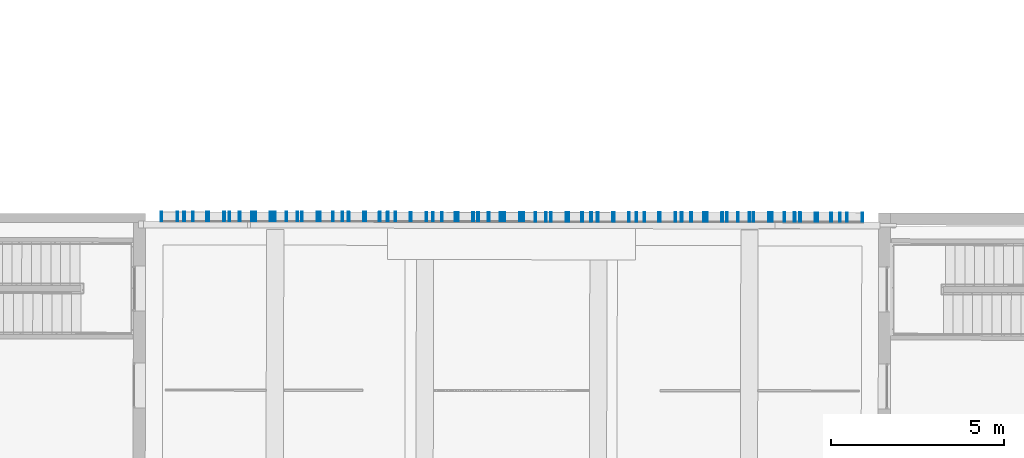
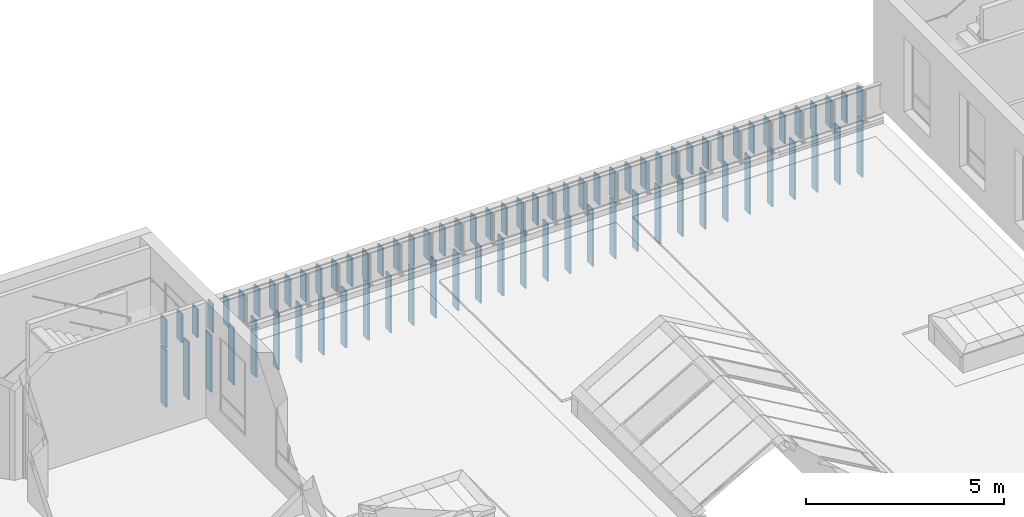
# One storey, part 2 of 101: 78 columns.
"""IFC2X3 building model written with IfcOpenShell, lengths in metres."""

from ifc_helpers import new_model, entity, si_unit, converted_unit, derived_unit, direction, frame, frame_2d, origin, place, context, subcontext, project, spatial, polyline, circle_curve, parameter, trimmed, segment, composite_curve, outline, extrude, source, transform, mapped, material, type_object, type_shapes, element, save


model = new_model("IFC2X3")

# Units and contexts
model_context = context("Model", 3, precision=1e-05, world=origin(), true_north=direction((6.123233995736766e-17, 1.0)))
body_context = subcontext(model_context, "Body", "Model", "MODEL_VIEW")
ifc_project = project(units=[si_unit("LENGTHUNIT", "METRE"), si_unit("AREAUNIT", "SQUARE_METRE"), converted_unit("PLANEANGLEUNIT", "DEGREE", entity("IfcPlaneAngleMeasure", 0.017453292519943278), si_unit("PLANEANGLEUNIT", "RADIAN"), dimensions=[0, 0, 0, 0, 0, 0, 0]), derived_unit("THERMALTRANSMITTANCEUNIT", [(si_unit("MASSUNIT", "GRAM", prefix="KILO"), 1), (si_unit("THERMODYNAMICTEMPERATUREUNIT", "KELVIN"), -1), (si_unit("TIMEUNIT", "SECOND"), -3)])], contexts=[model_context])

# Site, building, storey
site_placement = place(None, frame((1253.6752467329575, 2072.143113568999, 91.49999999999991), z_axis=(0.0, 0.0, 1.0), x_axis=(0.7237211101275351, 0.6900925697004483, 0.0)))
site = spatial("IfcSite", under=ifc_project, at=site_placement, Name="Surface", CompositionType="ELEMENT")
building_placement = place(site_placement, origin())
building = spatial("IfcBuilding", under=site, at=building_placement, CompositionType="ELEMENT")
storey_placement = place(building_placement, origin())
storey = spatial("IfcBuildingStorey", under=building, at=storey_placement, Name="0- Rdc", CompositionType="ELEMENT", Elevation=-5.764692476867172e-13)

# Columns
ifc_material = material(Name="OMD_couleur facade-blanc perlé")
column_type_1 = type_object("IfcColumnType", Name="Profil creux rectangulaire RHS:270x50RHS", PredefinedType="COLUMN", material=ifc_material)
shared_shape_1 = source(origin(), body_context, "Body", "SweptSolid", [
    extrude(outline(composite_curve([segment(polyline([(-0.01900000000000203, -0.13499999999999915), (0.01900000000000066, -0.13499999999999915)]), True, "CONTINUOUS"), segment(trimmed(circle_curve(frame_2d((0.019000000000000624, -0.12900000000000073), x_axis=(-1.0, 0.0)), 0.0059999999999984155), [parameter(90.00000000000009)], [parameter(180.00000000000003)], True, "PARAMETER"), True, "CONTINUOUS"), segment(polyline([(0.02499999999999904, -0.12900000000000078), (0.024999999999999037, 0.12900000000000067)]), True, "CONTINUOUS"), segment(trimmed(circle_curve(frame_2d((0.018999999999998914, 0.1290000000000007), x_axis=(-1.0, 0.0)), 0.006000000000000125), [parameter(180.00000000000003)], [parameter(269.99999999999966)], True, "PARAMETER"), True, "CONTINUOUS"), segment(polyline([(0.018999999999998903, 0.13500000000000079), (-0.018999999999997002, 0.13500000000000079)]), True, "CONTINUOUS"), segment(trimmed(circle_curve(frame_2d((-0.018999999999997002, 0.1289999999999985), x_axis=(-1.0, 0.0)), 0.006000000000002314), [parameter(269.99999999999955)], [parameter(359.9999999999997)], True, "PARAMETER"), True, "CONTINUOUS"), segment(polyline([(-0.024999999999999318, 0.12899999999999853), (-0.024999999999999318, -0.12900000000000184)]), True, "CONTINUOUS"), segment(trimmed(circle_curve(frame_2d((-0.01900000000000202, -0.12900000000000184), x_axis=(-1.0, 0.0)), 0.005999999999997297), [parameter(359.9999999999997)], [parameter(89.99999999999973)], True, "PARAMETER"), True, "CONTINUOUS")], self_intersect=False), holes=[composite_curve([segment(trimmed(circle_curve(frame_2d((-0.019000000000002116, -0.1290000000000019), x_axis=(-1.0, 0.0)), 0.0029999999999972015), [parameter(0.0)], [parameter(90.00000000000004)], True, "PARAMETER"), False, "CONTINUOUS"), segment(polyline([(-0.021999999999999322, -0.1290000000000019), (-0.021999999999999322, 0.1290000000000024)]), True, "CONTINUOUS"), segment(trimmed(circle_curve(frame_2d((-0.019000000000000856, 0.12900000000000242), x_axis=(-1.0, 0.0)), 0.0029999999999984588), [parameter(269.99999999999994)], [parameter(359.9999999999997)], True, "PARAMETER"), False, "CONTINUOUS"), segment(polyline([(-0.01900000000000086, 0.13200000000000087), (0.018999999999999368, 0.13200000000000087)]), True, "CONTINUOUS"), segment(trimmed(circle_curve(frame_2d((0.01899999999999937, 0.1289999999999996), x_axis=(-1.0, 0.0)), 0.0030000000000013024), [parameter(179.99999999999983)], [parameter(270.0)], True, "PARAMETER"), False, "CONTINUOUS"), segment(polyline([(0.022000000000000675, 0.1289999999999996), (0.02200000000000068, -0.12899999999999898)]), True, "CONTINUOUS"), segment(trimmed(circle_curve(frame_2d((0.01900000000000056, -0.12899999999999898), x_axis=(-1.0, 0.0)), 0.0030000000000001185), [parameter(90.00000000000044)], [parameter(180.0000000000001)], True, "PARAMETER"), False, "CONTINUOUS"), segment(polyline([(0.019000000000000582, -0.1319999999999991), (-0.019000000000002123, -0.1319999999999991)]), True, "CONTINUOUS")], self_intersect=False)]), frame((0.0, 0.0, -2.0350000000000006), z_axis=(0.0, 0.0, 1.0), x_axis=(-1.0, 0.0, 0.0)), (0.0, 0.0, 1.0), 1.752999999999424),
])
type_shapes(column_type_1, [shared_shape_1])
for number, where, z_axis, x_axis, name in (
    (1, (178.46135214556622, 15.874852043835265, 0.0), (0.0, 0.0, 1.0), (0.7228702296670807, -0.6909838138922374, 0.0), "Profil creux rectangulaire RHS:270x50RHS"),
    (2, (177.98891517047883, 16.326449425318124, 0.0), (0.0, 0.0, 1.0), (0.7228702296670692, -0.6909838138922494, 0.0), "Profil creux rectangulaire RHS:270x50RHS"),
    (3, (177.51647819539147, 16.778046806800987, 0.0), (0.0, 0.0, 1.0), (0.7228702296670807, -0.6909838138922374, 0.0), "Profil creux rectangulaire RHS:270x50RHS"),
    (4, (177.04404122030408, 17.22964418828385, 0.0), (0.0, 0.0, 1.0), (0.7228702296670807, -0.6909838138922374, 0.0), "Profil creux rectangulaire RHS:270x50RHS"),
    (5, (178.93378912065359, 15.423254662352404, 0.0), (0.0, 0.0, 1.0), (0.7228702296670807, -0.6909838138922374, 0.0), "Profil creux rectangulaire RHS:270x50RHS"),
    (6, (179.40622609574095, 14.971657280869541, 0.0), (0.0, 0.0, 1.0), (0.7228702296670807, -0.6909838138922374, 0.0), "Profil creux rectangulaire RHS:270x50RHS"),
    (7, (179.87866307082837, 14.52005989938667, 0.0), (0.0, 0.0, 1.0), (0.7228702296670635, -0.6909838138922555, 0.0), "Profil creux rectangulaire RHS:270x50RHS"),
    (8, (180.35110004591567, 14.068462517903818, 0.0), (0.0, 0.0, 1.0), (0.7228702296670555, -0.6909838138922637, 0.0), "Profil creux rectangulaire RHS:270x50RHS"),
    (9, (180.8235370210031, 13.616865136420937, 0.0), (0.0, 0.0, 1.0), (0.7228702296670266, -0.6909838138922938, 0.0), "Profil creux rectangulaire RHS:270x50RHS"),
    (10, (181.29597399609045, 13.16526775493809, 0.0), (0.0, 0.0, 1.0), (0.7228702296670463, -0.6909838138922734, 0.0), "Profil creux rectangulaire RHS:270x50RHS"),
    (11, (181.76841097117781, 12.71367037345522, 0.0), (0.0, 0.0, 1.0), (0.7228702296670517, -0.6909838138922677, 0.0), "Profil creux rectangulaire RHS:270x50RHS"),
    (12, (182.24084794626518, 12.262072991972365, 0.0), (0.0, 0.0, 1.0), (0.7228702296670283, -0.690983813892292, 0.0), "Profil creux rectangulaire RHS:270x50RHS"),
    (13, (182.7132849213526, 11.810475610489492, 0.0), (0.0, 0.0, 1.0), (0.7228702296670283, -0.690983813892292, 0.0), "Profil creux rectangulaire RHS:270x50RHS"),
    (14, (183.1857218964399, 11.35887822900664, 0.0), (0.0, 0.0, 1.0), (0.7228702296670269, -0.6909838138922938, 0.0), "Profil creux rectangulaire RHS:270x50RHS"),
    (15, (183.65561807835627, 10.90970956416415, 0.0), (0.0, 0.0, 1.0), (0.7228702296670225, -0.6909838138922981, 0.0), "Profil creux rectangulaire RHS:270x50RHS"),
    (16, (184.12560449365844, 10.460454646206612, 0.0), (0.0, 0.0, 1.0), (0.722870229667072, -0.6909838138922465, 0.0), "Profil creux rectangulaire RHS:270x50RHS"),
    (17, (184.59790804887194, 10.008984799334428, 0.0), (0.0, 0.0, 1.0), (0.7228702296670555, -0.6909838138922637, 0.0), "Profil creux rectangulaire RHS:270x50RHS"),
    (18, (185.07021160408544, 9.557514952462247, 0.0), (0.0, 0.0, 1.0), (0.7228702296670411, -0.6909838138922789, 0.0), "Profil creux rectangulaire RHS:270x50RHS"),
    (19, (185.54251515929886, 9.106045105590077, 0.0), (0.0, 0.0, 1.0), (0.7228702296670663, -0.6909838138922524, 0.0), "Profil creux rectangulaire RHS:270x50RHS"),
    (20, (186.01481871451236, 8.654575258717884, 0.0), (0.0, 0.0, 1.0), (0.7228702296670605, -0.6909838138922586, 0.0), "Profil creux rectangulaire RHS:270x50RHS"),
    (21, (186.4871222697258, 8.203105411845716, 0.0), (0.0, 0.0, 1.0), (0.7228702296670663, -0.6909838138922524, 0.0), "Profil creux rectangulaire RHS:270x50RHS"),
    (22, (186.9594258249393, 7.75163556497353, 0.0), (0.0, 0.0, 1.0), (0.7228702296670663, -0.6909838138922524, 0.0), "Profil creux rectangulaire RHS:270x50RHS"),
    (23, (187.4317293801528, 7.300165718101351, 0.0), (0.0, 0.0, 1.0), (0.7228702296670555, -0.6909838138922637, 0.0), "Profil creux rectangulaire RHS:270x50RHS"),
    (24, (187.90403293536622, 6.848695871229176, 0.0), (0.0, 0.0, 1.0), (0.7228702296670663, -0.6909838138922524, 0.0), "Profil creux rectangulaire RHS:270x50RHS"),
    (25, (188.37633649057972, 6.397226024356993, 0.0), (0.0, 0.0, 1.0), (0.7228702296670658, -0.6909838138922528, 0.0), "Profil creux rectangulaire RHS:270x50RHS"),
    (26, (188.84864004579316, 5.945756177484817, 0.0), (0.0, 0.0, 1.0), (0.7228702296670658, -0.6909838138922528, 0.0), "Profil creux rectangulaire RHS:270x50RHS"),
    (27, (189.3209436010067, 5.494286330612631, 0.0), (0.0, 0.0, 1.0), (0.7228702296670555, -0.6909838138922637, 0.0), "Profil creux rectangulaire RHS:270x50RHS"),
    (28, (189.7932471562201, 5.042816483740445, 0.0), (0.0, 0.0, 1.0), (0.7228702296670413, -0.6909838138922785, 0.0), "Profil creux rectangulaire RHS:270x50RHS"),
    (29, (190.26555071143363, 4.591346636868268, 0.0), (0.0, 0.0, 1.0), (0.7228702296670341, -0.6909838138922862, 0.0), "Profil creux rectangulaire RHS:270x50RHS"),
    (30, (190.73785426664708, 4.13987678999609, 0.0), (0.0, 0.0, 1.0), (0.7228702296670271, -0.6909838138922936, 0.0), "Profil creux rectangulaire RHS:270x50RHS"),
    (31, (191.21015782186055, 3.688406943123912, 0.0), (0.0, 0.0, 1.0), (0.7228702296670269, -0.6909838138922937, 0.0), "Profil creux rectangulaire RHS:270x50RHS"),
    (32, (176.5678742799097, 17.684807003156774, 0.0), (0.0, 0.0, 1.0), (0.7228702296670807, -0.6909838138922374, 0.0), "Profil creux rectangulaire RHS:270x50RHS"),
):
    element("IfcColumn", number, at=place(storey_placement, frame(where, z_axis=z_axis, x_axis=x_axis)), inside=storey, type_object=column_type_1, material=ifc_material, Name=name, ObjectType="Profil creux rectangulaire RHS:270x50RHS", context=body_context, shape_type="MappedRepresentation", body=[
        mapped(shared_shape_1, transform((0.0, 0.0, 0.0), scale=1.0)),
    ])
column_type_2 = type_object("IfcColumnType", Name="Profil creux rectangulaire RHS:270x50RHS", PredefinedType="COLUMN", material=ifc_material)
shared_shape_2 = source(origin(), body_context, "Body", "SweptSolid", [
    extrude(outline(composite_curve([segment(polyline([(-0.01900000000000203, -0.13499999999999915), (0.01900000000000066, -0.13499999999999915)]), True, "CONTINUOUS"), segment(trimmed(circle_curve(frame_2d((0.019000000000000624, -0.12900000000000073), x_axis=(-1.0, 0.0)), 0.0059999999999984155), [parameter(90.00000000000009)], [parameter(180.00000000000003)], True, "PARAMETER"), True, "CONTINUOUS"), segment(polyline([(0.02499999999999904, -0.12900000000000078), (0.024999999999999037, 0.12900000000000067)]), True, "CONTINUOUS"), segment(trimmed(circle_curve(frame_2d((0.018999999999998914, 0.1290000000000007), x_axis=(-1.0, 0.0)), 0.006000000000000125), [parameter(180.00000000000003)], [parameter(269.99999999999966)], True, "PARAMETER"), True, "CONTINUOUS"), segment(polyline([(0.018999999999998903, 0.13500000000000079), (-0.018999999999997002, 0.13500000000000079)]), True, "CONTINUOUS"), segment(trimmed(circle_curve(frame_2d((-0.018999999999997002, 0.1289999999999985), x_axis=(-1.0, 0.0)), 0.006000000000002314), [parameter(269.99999999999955)], [parameter(359.9999999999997)], True, "PARAMETER"), True, "CONTINUOUS"), segment(polyline([(-0.024999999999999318, 0.12899999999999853), (-0.024999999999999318, -0.12900000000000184)]), True, "CONTINUOUS"), segment(trimmed(circle_curve(frame_2d((-0.01900000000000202, -0.12900000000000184), x_axis=(-1.0, 0.0)), 0.005999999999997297), [parameter(359.9999999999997)], [parameter(89.99999999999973)], True, "PARAMETER"), True, "CONTINUOUS")], self_intersect=False), holes=[composite_curve([segment(trimmed(circle_curve(frame_2d((-0.019000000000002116, -0.1290000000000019), x_axis=(-1.0, 0.0)), 0.0029999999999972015), [parameter(0.0)], [parameter(90.00000000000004)], True, "PARAMETER"), False, "CONTINUOUS"), segment(polyline([(-0.021999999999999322, -0.1290000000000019), (-0.021999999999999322, 0.1290000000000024)]), True, "CONTINUOUS"), segment(trimmed(circle_curve(frame_2d((-0.019000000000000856, 0.12900000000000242), x_axis=(-1.0, 0.0)), 0.0029999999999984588), [parameter(269.99999999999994)], [parameter(359.9999999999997)], True, "PARAMETER"), False, "CONTINUOUS"), segment(polyline([(-0.01900000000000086, 0.13200000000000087), (0.018999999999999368, 0.13200000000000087)]), True, "CONTINUOUS"), segment(trimmed(circle_curve(frame_2d((0.01899999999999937, 0.1289999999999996), x_axis=(-1.0, 0.0)), 0.0030000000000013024), [parameter(179.99999999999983)], [parameter(270.0)], True, "PARAMETER"), False, "CONTINUOUS"), segment(polyline([(0.022000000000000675, 0.1289999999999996), (0.02200000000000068, -0.12899999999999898)]), True, "CONTINUOUS"), segment(trimmed(circle_curve(frame_2d((0.01900000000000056, -0.12899999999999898), x_axis=(-1.0, 0.0)), 0.0030000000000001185), [parameter(90.00000000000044)], [parameter(180.0000000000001)], True, "PARAMETER"), False, "CONTINUOUS"), segment(polyline([(0.019000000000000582, -0.1319999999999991), (-0.019000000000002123, -0.1319999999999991)]), True, "CONTINUOUS")], self_intersect=False)]), frame((0.0, 0.0, -0.21700000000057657), z_axis=(0.0, 0.0, 1.0), x_axis=(-1.0, 0.0, 0.0)), (0.0, 0.0, 1.0), 0.8720000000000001),
])
type_shapes(column_type_2, [shared_shape_2])
for number, where, z_axis, x_axis, name in (
    (33, (178.5271928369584, 15.811915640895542, 0.0), (0.0, 0.0, 1.0), (0.7228702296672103, -0.6909838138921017, 0.0), "Profil creux rectangulaire RHS:270x50RHS"),
    (34, (178.20204739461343, 16.12271864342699, 0.0), (0.0, 0.0, 1.0), (0.7228702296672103, -0.6909838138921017, 0.0), "Profil creux rectangulaire RHS:270x50RHS"),
    (35, (177.87690195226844, 16.43352164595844, 0.0), (0.0, 0.0, 1.0), (0.7228702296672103, -0.6909838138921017, 0.0), "Profil creux rectangulaire RHS:270x50RHS"),
    (36, (177.55175653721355, 16.744324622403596, 0.0), (0.0, 0.0, 1.0), (0.7228702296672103, -0.6909838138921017, 0.0), "Profil creux rectangulaire RHS:270x50RHS"),
    (37, (177.2266111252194, 17.055127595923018, 0.0), (0.0, 0.0, 1.0), (0.7228702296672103, -0.6909838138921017, 0.0), "Profil creux rectangulaire RHS:270x50RHS"),
    (38, (176.9014656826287, 17.365930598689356, 0.0), (0.0, 0.0, 1.0), (0.7228702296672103, -0.6909838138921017, 0.0), "Profil creux rectangulaire RHS:270x50RHS"),
    (39, (178.85233827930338, 15.501112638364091, 0.0), (0.0, 0.0, 1.0), (0.7228702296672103, -0.6909838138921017, 0.0), "Profil creux rectangulaire RHS:270x50RHS"),
    (40, (179.17748367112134, 15.190309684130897, 0.0), (0.0, 0.0, 1.0), (0.7228702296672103, -0.6909838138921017, 0.0), "Profil creux rectangulaire RHS:270x50RHS"),
    (41, (179.50262910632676, 14.879506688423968, 0.0), (0.0, 0.0, 1.0), (0.7228702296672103, -0.6909838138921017, 0.0), "Profil creux rectangulaire RHS:270x50RHS"),
    (42, (179.8277745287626, 14.568703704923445, 0.0), (0.0, 0.0, 1.0), (0.7228702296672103, -0.6909838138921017, 0.0), "Profil creux rectangulaire RHS:270x50RHS"),
    (43, (180.1529199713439, 14.257900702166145, 0.0), (0.0, 0.0, 1.0), (0.7228702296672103, -0.6909838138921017, 0.0), "Profil creux rectangulaire RHS:270x50RHS"),
    (44, (180.47806541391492, 13.947097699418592, 0.0), (0.0, 0.0, 1.0), (0.7228702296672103, -0.6909838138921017, 0.0), "Profil creux rectangulaire RHS:270x50RHS"),
    (45, (180.80321080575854, 13.636294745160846, 0.0), (0.0, 0.0, 1.0), (0.7228702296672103, -0.6909838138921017, 0.0), "Profil creux rectangulaire RHS:270x50RHS"),
    (46, (181.1283562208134, 13.325491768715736, 0.0), (0.0, 0.0, 1.0), (0.7228702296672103, -0.6909838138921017, 0.0), "Profil creux rectangulaire RHS:270x50RHS"),
    (47, (181.4535016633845, 13.014688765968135, 0.0), (0.0, 0.0, 1.0), (0.7228702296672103, -0.6909838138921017, 0.0), "Profil creux rectangulaire RHS:270x50RHS"),
    (48, (181.77864710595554, 12.703885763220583, 0.0), (0.0, 0.0, 1.0), (0.7228702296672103, -0.6909838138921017, 0.0), "Profil creux rectangulaire RHS:270x50RHS"),
    (49, (182.1037925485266, 12.393082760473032, 0.0), (0.0, 0.0, 1.0), (0.7228702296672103, -0.6909838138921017, 0.0), "Profil creux rectangulaire RHS:270x50RHS"),
    (50, (182.4289379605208, 12.082279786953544, 0.0), (0.0, 0.0, 1.0), (0.7228702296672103, -0.6909838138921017, 0.0), "Profil creux rectangulaire RHS:270x50RHS"),
    (51, (182.75408337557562, 11.771476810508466, 0.0), (0.0, 0.0, 1.0), (0.7228702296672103, -0.6909838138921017, 0.0), "Profil creux rectangulaire RHS:270x50RHS"),
    (52, (183.0792288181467, 11.46067380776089, 0.0), (0.0, 0.0, 1.0), (0.7228702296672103, -0.6909838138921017, 0.0), "Profil creux rectangulaire RHS:270x50RHS"),
    (53, (183.40437428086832, 11.149870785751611, 0.0), (0.0, 0.0, 1.0), (0.7228702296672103, -0.6909838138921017, 0.0), "Profil creux rectangulaire RHS:270x50RHS"),
    (54, (183.7295197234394, 10.839067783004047, 0.0), (0.0, 0.0, 1.0), (0.7228702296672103, -0.6909838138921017, 0.0), "Profil creux rectangulaire RHS:270x50RHS"),
    (55, (184.05466515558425, 10.528264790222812, 0.0), (0.0, 0.0, 1.0), (0.7228702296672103, -0.6909838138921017, 0.0), "Profil creux rectangulaire RHS:270x50RHS"),
    (56, (184.3798105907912, 10.217461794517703, 0.0), (0.0, 0.0, 1.0), (0.7228702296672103, -0.6909838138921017, 0.0), "Profil creux rectangulaire RHS:270x50RHS"),
    (57, (184.70495603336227, 9.906658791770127, 0.0), (0.0, 0.0, 1.0), (0.7228702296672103, -0.6909838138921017, 0.0), "Profil creux rectangulaire RHS:270x50RHS"),
    (58, (185.0301013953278, 9.595855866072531, 0.0), (0.0, 0.0, 1.0), (0.7228702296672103, -0.6909838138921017, 0.0), "Profil creux rectangulaire RHS:270x50RHS"),
    (59, (185.68039239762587, 8.97424974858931, 0.0), (0.0, 0.0, 1.0), (0.7228702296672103, -0.6909838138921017, 0.0), "Profil creux rectangulaire RHS:270x50RHS"),
    (60, (186.33068336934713, 8.35264366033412, 0.0), (0.0, 0.0, 1.0), (0.7228702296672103, -0.6909838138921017, 0.0), "Profil creux rectangulaire RHS:270x50RHS"),
    (61, (186.98097434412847, 7.7310375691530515, 0.0), (0.0, 0.0, 1.0), (0.7228702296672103, -0.6909838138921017, 0.0), "Profil creux rectangulaire RHS:270x50RHS"),
    (62, (187.63126534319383, 7.10943145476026, 0.0), (0.0, 0.0, 1.0), (0.7228702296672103, -0.6909838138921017, 0.0), "Profil creux rectangulaire RHS:270x50RHS"),
    (63, (188.28155633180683, 6.487825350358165, 0.0), (0.0, 0.0, 1.0), (0.7228702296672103, -0.6909838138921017, 0.0), "Profil creux rectangulaire RHS:270x50RHS"),
    (64, (188.93184733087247, 5.866219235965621, 0.0), (0.0, 0.0, 1.0), (0.7228702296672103, -0.6909838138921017, 0.0), "Profil creux rectangulaire RHS:270x50RHS"),
    (65, (189.58213830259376, 5.244613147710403, 0.0), (0.0, 0.0, 1.0), (0.7228702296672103, -0.6909838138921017, 0.0), "Profil creux rectangulaire RHS:270x50RHS"),
    (66, (190.23242927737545, 4.623007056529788, 0.0), (0.0, 0.0, 1.0), (0.7228702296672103, -0.6909838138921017, 0.0), "Profil creux rectangulaire RHS:270x50RHS"),
    (67, (190.88272026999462, 4.001400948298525, 0.0), (0.0, 0.0, 1.0), (0.7228702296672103, -0.6909838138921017, 0.0), "Profil creux rectangulaire RHS:270x50RHS"),
    (68, (191.20786582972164, 3.6905978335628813, 0.0), (0.0, 0.0, 1.0), (0.7228702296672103, -0.6909838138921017, 0.0), "Profil creux rectangulaire RHS:270x50RHS"),
    (69, (190.55757483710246, 4.312203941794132, 0.0), (0.0, 0.0, 1.0), (0.7228702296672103, -0.6909838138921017, 0.0), "Profil creux rectangulaire RHS:270x50RHS"),
    (70, (189.25699274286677, 5.555416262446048, 0.0), (0.0, 0.0, 1.0), (0.7228702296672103, -0.6909838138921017, 0.0), "Profil creux rectangulaire RHS:270x50RHS"),
    (71, (187.95641077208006, 6.798628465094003, 0.0), (0.0, 0.0, 1.0), (0.7228702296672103, -0.6909838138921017, 0.0), "Profil creux rectangulaire RHS:270x50RHS"),
    (72, (186.00553780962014, 8.663446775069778, 0.0), (0.0, 0.0, 1.0), (0.7228702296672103, -0.6909838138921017, 0.0), "Profil creux rectangulaire RHS:270x50RHS"),
    (73, (186.6558289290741, 8.041840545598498, 0.0), (0.0, 0.0, 1.0), (0.7228702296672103, -0.6909838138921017, 0.0), "Profil creux rectangulaire RHS:270x50RHS"),
    (74, (187.30611990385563, 7.4202344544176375, 0.0), (0.0, 0.0, 1.0), (0.7228702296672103, -0.6909838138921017, 0.0), "Profil creux rectangulaire RHS:270x50RHS"),
    (75, (185.35524683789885, 9.285052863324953, 0.0), (0.0, 0.0, 1.0), (0.7228702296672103, -0.6909838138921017, 0.0), "Profil creux rectangulaire RHS:270x50RHS"),
    (76, (188.60670189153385, 6.177022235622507, 0.0), (0.0, 0.0, 1.0), (0.7228702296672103, -0.6909838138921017, 0.0), "Profil creux rectangulaire RHS:270x50RHS"),
    (77, (189.90728386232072, 4.933810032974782, 0.0), (0.0, 0.0, 1.0), (0.7228702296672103, -0.6909838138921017, 0.0), "Profil creux rectangulaire RHS:270x50RHS"),
    (78, (176.56729610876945, 17.685383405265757, 0.0), (0.0, 0.0, 1.0), (0.7228702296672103, -0.6909838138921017, 0.0), "Profil creux rectangulaire RHS:270x50RHS"),
):
    element("IfcColumn", number, at=place(storey_placement, frame(where, z_axis=z_axis, x_axis=x_axis)), inside=storey, type_object=column_type_2, material=ifc_material, Name=name, ObjectType="Profil creux rectangulaire RHS:270x50RHS", context=body_context, shape_type="MappedRepresentation", body=[
        mapped(shared_shape_2, transform((0.0, 0.0, 0.0), scale=1.0)),
    ])

save(model, "model.ifc")
